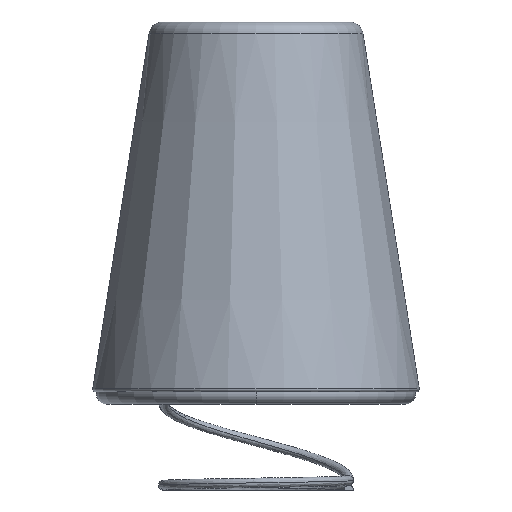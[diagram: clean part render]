
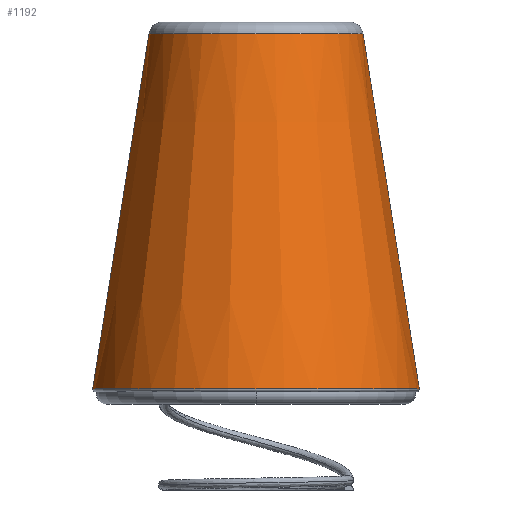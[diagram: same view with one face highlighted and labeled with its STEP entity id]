
A CAD part, left-side view. The second image highlights one B-rep face of the part: STEP entity #1192.
In plain terms, the highlighted conical face has half-angle 9 degrees and reference radius 9.902 mm.
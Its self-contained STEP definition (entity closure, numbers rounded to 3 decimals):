
#567=CARTESIAN_POINT('',(0.,0.,0.231));
#568=DIRECTION('',(0.,0.,-1.));
#569=DIRECTION('',(0.,-1.,0.));
#570=AXIS2_PLACEMENT_3D('',#567,#568,#569);
#575=DIRECTION('',(0.,0.156,-0.988));
#576=VECTOR('',#575,26.35);
#577=CARTESIAN_POINT('',(0.,7.841,
26.256));
#578=LINE('',#577,#576);
#582=CARTESIAN_POINT('',(0.,0.,26.256));
#583=DIRECTION('',(0.,0.,-1.));
#584=DIRECTION('',(0.,-1.,0.));
#585=AXIS2_PLACEMENT_3D('',#582,#583,#584);
#590=DIRECTION('',(0.,-0.156,-0.988));
#591=VECTOR('',#590,26.35);
#592=CARTESIAN_POINT('',(0.,-7.841,
26.256));
#593=LINE('',#592,#591);
#645=CARTESIAN_POINT('',(0.,11.963,0.231));
#646=CARTESIAN_POINT('',(0.,-11.963,0.231));
#647=VERTEX_POINT('',#645);
#648=VERTEX_POINT('',#646);
#649=CARTESIAN_POINT('',(0.,7.841,26.256));
#650=CARTESIAN_POINT('',(0.,-7.841,26.256));
#651=VERTEX_POINT('',#649);
#652=VERTEX_POINT('',#650);
#1180=CARTESIAN_POINT('',(0.,0.,13.244));
#1181=DIRECTION('',(0.,0.,-1.));
#1182=DIRECTION('',(0.,1.,0.));
#1183=AXIS2_PLACEMENT_3D('',#1180,#1181,#1182);
#1184=CONICAL_SURFACE('',#1183,9.902,9.);
#1185=ORIENTED_EDGE('',*,*,#1174,.T.);
#1186=ORIENTED_EDGE('',*,*,#776,.F.);
#1188=ORIENTED_EDGE('',*,*,#1187,.F.);
#1189=ORIENTED_EDGE('',*,*,#773,.T.);
#1190=EDGE_LOOP('',(#1185,#1186,#1188,#1189));
#1191=FACE_OUTER_BOUND('',#1190,.F.);
#571=CIRCLE('',#570,11.963);
#586=CIRCLE('',#585,7.841);
#773=EDGE_CURVE('',#652,#648,#593,.T.);
#776=EDGE_CURVE('',#651,#647,#578,.T.);
#1174=EDGE_CURVE('',#648,#647,#571,.T.);
#1187=EDGE_CURVE('',#652,#651,#586,.T.);
#1192=ADVANCED_FACE('',(#1191),#1184,.T.);
